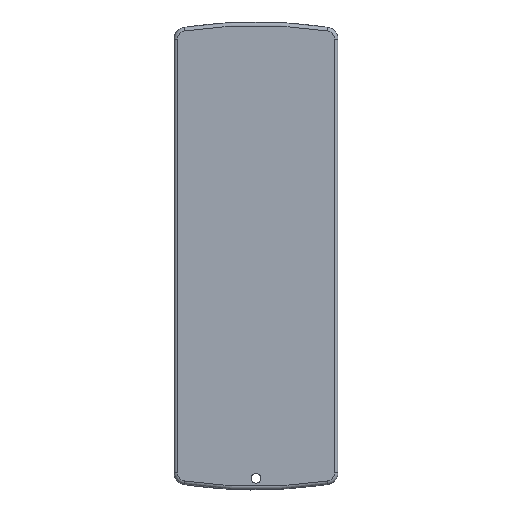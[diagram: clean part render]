
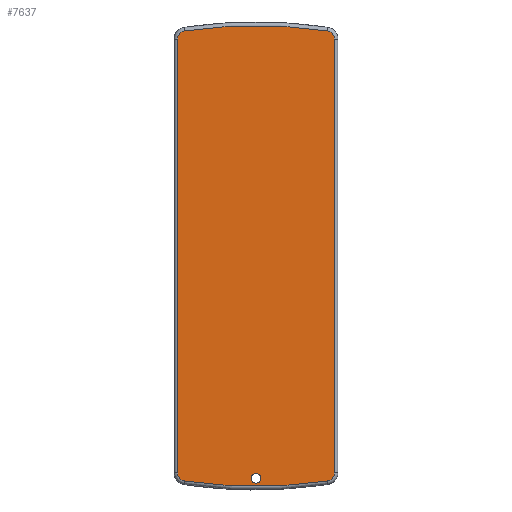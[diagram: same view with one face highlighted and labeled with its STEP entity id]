
A CAD part, front view. The second image highlights one B-rep face of the part: STEP entity #7637.
In plain terms, the highlighted planar face has unit normal (0, -1, 0).
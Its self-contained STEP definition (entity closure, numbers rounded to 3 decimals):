
#84=CARTESIAN_POINT('',(0.,0.,-82.5));
#85=DIRECTION('',(0.,1.,0.));
#86=DIRECTION('',(1.,0.,0.));
#87=AXIS2_PLACEMENT_3D('',#84,#85,#86);
#93=CARTESIAN_POINT('',(0.,0.,-82.5));
#94=DIRECTION('',(0.,1.,0.));
#95=DIRECTION('',(-1.,0.,0.));
#96=AXIS2_PLACEMENT_3D('',#93,#94,#95);
#101=CARTESIAN_POINT('',(0.,0.,112.5));
#102=DIRECTION('',(0.,-1.,0.));
#103=DIRECTION('',(-0.154,0.,-0.988));
#104=AXIS2_PLACEMENT_3D('',#101,#102,#103);
#109=CARTESIAN_POINT('',(-30.,0.,-80.178));
#110=DIRECTION('',(0.,-1.,0.));
#111=DIRECTION('',(-1.,0.,0.));
#112=AXIS2_PLACEMENT_3D('',#109,#110,#111);
#117=DIRECTION('',(0.,0.,-1.));
#118=VECTOR('',#117,185.357);
#119=CARTESIAN_POINT('',(-33.5,0.,105.178));
#120=LINE('',#119,#118);
#124=CARTESIAN_POINT('',(-30.,0.,105.178));
#125=DIRECTION('',(0.,-1.,0.));
#126=DIRECTION('',(-0.154,0.,0.988));
#127=AXIS2_PLACEMENT_3D('',#124,#125,#126);
#132=CARTESIAN_POINT('',(0.,0.,-87.5));
#133=DIRECTION('',(0.,-1.,0.));
#134=DIRECTION('',(0.154,0.,0.988));
#135=AXIS2_PLACEMENT_3D('',#132,#133,#134);
#140=CARTESIAN_POINT('',(30.,0.,105.178));
#141=DIRECTION('',(0.,-1.,0.));
#142=DIRECTION('',(1.,0.,0.));
#143=AXIS2_PLACEMENT_3D('',#140,#141,#142);
#148=DIRECTION('',(0.,0.,1.));
#149=VECTOR('',#148,185.357);
#150=CARTESIAN_POINT('',(33.5,0.,-80.178));
#151=LINE('',#150,#149);
#155=CARTESIAN_POINT('',(30.,0.,-80.178));
#156=DIRECTION('',(0.,-1.,0.));
#157=DIRECTION('',(0.154,0.,-0.988));
#158=AXIS2_PLACEMENT_3D('',#155,#156,#157);
#6578=CARTESIAN_POINT('',(2.1,0.,-82.5));
#6579=CARTESIAN_POINT('',(-2.1,0.,-82.5));
#6580=VERTEX_POINT('',#6578);
#6581=VERTEX_POINT('',#6579);
#7022=CARTESIAN_POINT('',(-30.538,0.,-83.637));
#7023=CARTESIAN_POINT('',(30.538,0.,-83.637));
#7024=VERTEX_POINT('',#7022);
#7025=VERTEX_POINT('',#7023);
#7030=CARTESIAN_POINT('',(33.5,0.,-80.178));
#7031=VERTEX_POINT('',#7030);
#7034=CARTESIAN_POINT('',(33.5,0.,105.178));
#7035=VERTEX_POINT('',#7034);
#7038=CARTESIAN_POINT('',(30.538,0.,108.637));
#7039=VERTEX_POINT('',#7038);
#7042=CARTESIAN_POINT('',(-30.538,0.,108.637));
#7043=VERTEX_POINT('',#7042);
#7046=CARTESIAN_POINT('',(-33.5,0.,105.178));
#7047=VERTEX_POINT('',#7046);
#7050=CARTESIAN_POINT('',(-33.5,0.,-80.178));
#7051=VERTEX_POINT('',#7050);
#7608=CARTESIAN_POINT('',(0.,0.,0.));
#7609=DIRECTION('',(0.,1.,0.));
#7610=DIRECTION('',(1.,0.,0.));
#7611=AXIS2_PLACEMENT_3D('',#7608,#7609,#7610);
#7612=PLANE('',#7611);
#7614=ORIENTED_EDGE('',*,*,#7613,.F.);
#7616=ORIENTED_EDGE('',*,*,#7615,.F.);
#7618=ORIENTED_EDGE('',*,*,#7617,.F.);
#7620=ORIENTED_EDGE('',*,*,#7619,.F.);
#7622=ORIENTED_EDGE('',*,*,#7621,.F.);
#7624=ORIENTED_EDGE('',*,*,#7623,.F.);
#7626=ORIENTED_EDGE('',*,*,#7625,.F.);
#7628=ORIENTED_EDGE('',*,*,#7627,.F.);
#7629=EDGE_LOOP('',(#7614,#7616,#7618,#7620,#7622,#7624,#7626,#7628));
#7630=FACE_OUTER_BOUND('',#7629,.F.);
#7632=ORIENTED_EDGE('',*,*,#7631,.F.);
#7634=ORIENTED_EDGE('',*,*,#7633,.F.);
#7635=EDGE_LOOP('',(#7632,#7634));
#7636=FACE_BOUND('',#7635,.F.);
#88=CIRCLE('',#87,2.1);
#97=CIRCLE('',#96,2.1);
#105=CIRCLE('',#104,198.5);
#113=CIRCLE('',#112,3.5);
#128=CIRCLE('',#127,3.5);
#136=CIRCLE('',#135,198.5);
#144=CIRCLE('',#143,3.5);
#159=CIRCLE('',#158,3.5);
#7613=EDGE_CURVE('',#7024,#7025,#105,.T.);
#7615=EDGE_CURVE('',#7051,#7024,#113,.T.);
#7617=EDGE_CURVE('',#7047,#7051,#120,.T.);
#7619=EDGE_CURVE('',#7043,#7047,#128,.T.);
#7621=EDGE_CURVE('',#7039,#7043,#136,.T.);
#7623=EDGE_CURVE('',#7035,#7039,#144,.T.);
#7625=EDGE_CURVE('',#7031,#7035,#151,.T.);
#7627=EDGE_CURVE('',#7025,#7031,#159,.T.);
#7631=EDGE_CURVE('',#6580,#6581,#88,.T.);
#7633=EDGE_CURVE('',#6581,#6580,#97,.T.);
#7637=ADVANCED_FACE('',(#7630,#7636),#7612,.F.);
